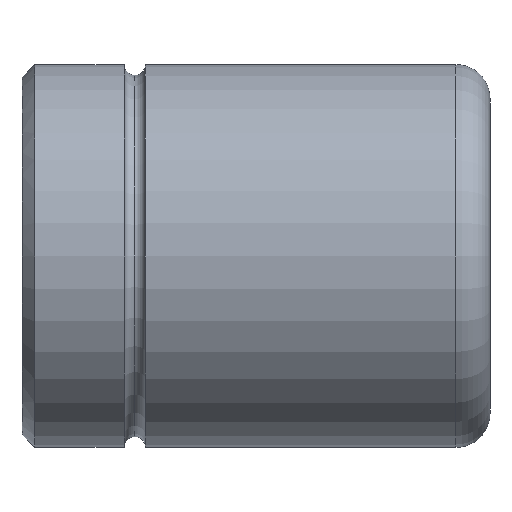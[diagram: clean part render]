
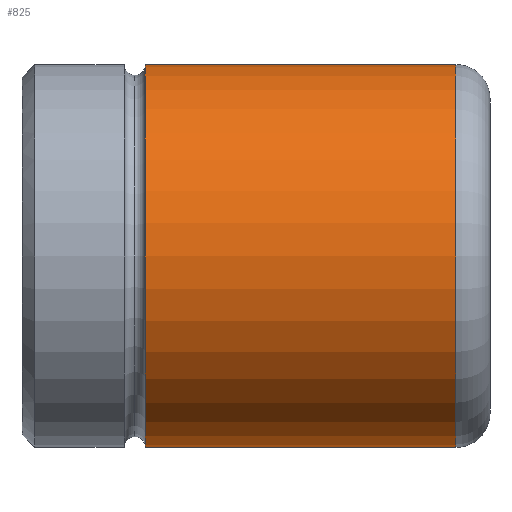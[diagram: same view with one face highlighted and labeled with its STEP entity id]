
A CAD part, front view. The second image highlights one B-rep face of the part: STEP entity #825.
In plain terms, the highlighted cylindrical face has radius 22.5 mm (diameter 45 mm), a partial arc.
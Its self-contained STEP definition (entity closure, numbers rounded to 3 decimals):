
#641=CARTESIAN_POINT('Vertex',(14.5,0.,22.5)) ;
#648=CARTESIAN_POINT('Vertex',(14.5,0.,-22.5)) ;
#674=CARTESIAN_POINT('Axis2P3D Location',(14.5,0.,0.)) ;
#678=CARTESIAN_POINT('Vertex',(14.5,-22.5,0.)) ;
#681=CARTESIAN_POINT('Axis2P3D Location',(14.5,0.,0.)) ;
#765=CARTESIAN_POINT('Line Origine',(55.,0.,22.5)) ;
#769=CARTESIAN_POINT('Vertex',(51.,0.,22.5)) ;
#783=CARTESIAN_POINT('Vertex',(51.,0.,-22.5)) ;
#786=CARTESIAN_POINT('Line Origine',(55.,0.,-22.5)) ;
#800=CARTESIAN_POINT('Axis2P3D Location',(55.,0.,0.)) ;
#805=CARTESIAN_POINT('Axis2P3D Location',(51.,0.,0.)) ;
#809=CARTESIAN_POINT('Vertex',(51.,-22.5,0.)) ;
#812=CARTESIAN_POINT('Axis2P3D Location',(51.,0.,0.)) ;
#675=DIRECTION('Axis2P3D Direction',(1.,0.,-0.)) ;
#682=DIRECTION('Axis2P3D Direction',(1.,0.,-0.)) ;
#766=DIRECTION('Vector Direction',(-1.,0.,0.)) ;
#787=DIRECTION('Vector Direction',(-1.,0.,0.)) ;
#801=DIRECTION('Axis2P3D Direction',(-1.,-0.,-0.)) ;
#802=DIRECTION('Axis2P3D XDirection',(0.,0.,-1.)) ;
#806=DIRECTION('Axis2P3D Direction',(-1.,-0.,-0.)) ;
#813=DIRECTION('Axis2P3D Direction',(-1.,-0.,-0.)) ;
#676=AXIS2_PLACEMENT_3D('Circle Axis2P3D',#674,#675,$) ;
#683=AXIS2_PLACEMENT_3D('Circle Axis2P3D',#681,#682,$) ;
#803=AXIS2_PLACEMENT_3D('Cylinder Axis2P3D',#800,#801,#802) ;
#807=AXIS2_PLACEMENT_3D('Circle Axis2P3D',#805,#806,$) ;
#814=AXIS2_PLACEMENT_3D('Circle Axis2P3D',#812,#813,$) ;
#818=ORIENTED_EDGE('',*,*,#790,.T.) ;
#819=ORIENTED_EDGE('',*,*,#811,.F.) ;
#820=ORIENTED_EDGE('',*,*,#816,.F.) ;
#821=ORIENTED_EDGE('',*,*,#771,.T.) ;
#822=ORIENTED_EDGE('',*,*,#685,.T.) ;
#823=ORIENTED_EDGE('',*,*,#680,.T.) ;
#767=VECTOR('Line Direction',#766,1.) ;
#788=VECTOR('Line Direction',#787,1.) ;
#825=ADVANCED_FACE('347-30 x 55',(#824),#804,.T.) ;
#677=CIRCLE('generated circle',#676,22.5) ;
#684=CIRCLE('generated circle',#683,22.5) ;
#808=CIRCLE('generated circle',#807,22.5) ;
#815=CIRCLE('generated circle',#814,22.5) ;
#804=CYLINDRICAL_SURFACE('generated cylinder',#803,22.5) ;
#680=EDGE_CURVE('',#679,#649,#677,.T.) ;
#685=EDGE_CURVE('',#642,#679,#684,.T.) ;
#771=EDGE_CURVE('',#770,#642,#768,.T.) ;
#790=EDGE_CURVE('',#649,#784,#789,.F.) ;
#811=EDGE_CURVE('',#810,#784,#808,.F.) ;
#816=EDGE_CURVE('',#770,#810,#815,.F.) ;
#817=EDGE_LOOP('',(#818,#819,#820,#821,#822,#823)) ;
#824=FACE_OUTER_BOUND('',#817,.T.) ;
#768=LINE('Line',#765,#767) ;
#789=LINE('Line',#786,#788) ;
#642=VERTEX_POINT('',#641) ;
#649=VERTEX_POINT('',#648) ;
#679=VERTEX_POINT('',#678) ;
#770=VERTEX_POINT('',#769) ;
#784=VERTEX_POINT('',#783) ;
#810=VERTEX_POINT('',#809) ;
